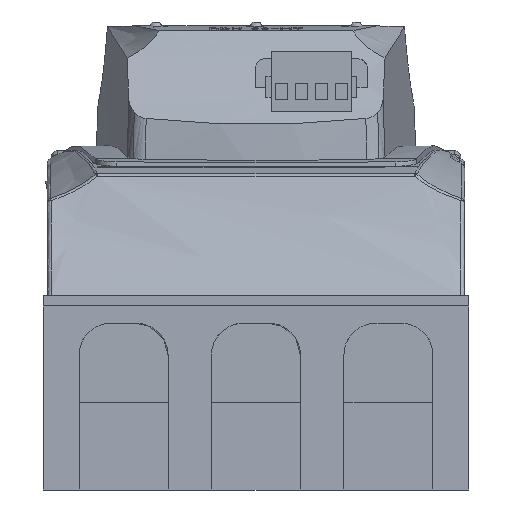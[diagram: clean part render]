
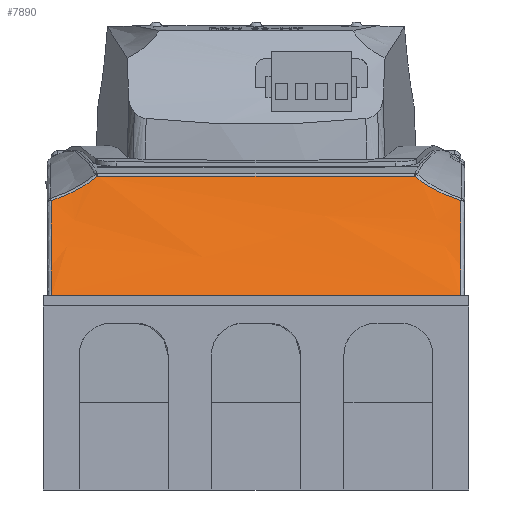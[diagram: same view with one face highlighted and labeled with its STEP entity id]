
A CAD part, left-side view. The second image highlights one B-rep face of the part: STEP entity #7890.
In plain terms, the highlighted face is a extrusion surface.
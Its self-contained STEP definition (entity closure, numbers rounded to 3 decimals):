
#4108=SURFACE_OF_LINEAR_EXTRUSION('',#4993,#14193);
#4993=ELLIPSE('',#32696,35.,12.5);
#7890=ADVANCED_FACE('',(#9507),#4108,.F.);
#9507=FACE_OUTER_BOUND('',#11049,.T.);
#11049=EDGE_LOOP('',(#18317,#18318,#18319,#18320,#18321,#18322));
#12214=LINE('',#43554,#13759);
#12612=LINE('',#54571,#14157);
#13759=VECTOR('',#35335,1.);
#14157=VECTOR('',#37101,1.);
#14193=VECTOR('',#37379,1.);
#18317=ORIENTED_EDGE('',*,*,#28181,.T.);
#18318=ORIENTED_EDGE('',*,*,#28126,.T.);
#18319=ORIENTED_EDGE('',*,*,#28121,.T.);
#18320=ORIENTED_EDGE('',*,*,#27196,.T.);
#18321=ORIENTED_EDGE('',*,*,#26942,.F.);
#18322=ORIENTED_EDGE('',*,*,#28288,.T.);
#24178=VERTEX_POINT('',#43553);
#24179=VERTEX_POINT('',#43555);
#24390=VERTEX_POINT('',#44412);
#24987=VERTEX_POINT('',#54531);
#24990=VERTEX_POINT('',#54568);
#25018=VERTEX_POINT('',#55021);
#26942=EDGE_CURVE('',#24178,#24179,#12214,.T.);
#27196=EDGE_CURVE('',#24390,#24179,#30615,.T.);
#28121=EDGE_CURVE('',#24987,#24390,#30976,.T.);
#28126=EDGE_CURVE('',#24990,#24987,#12612,.T.);
#28181=EDGE_CURVE('',#25018,#24990,#30995,.T.);
#28288=EDGE_CURVE('',#24178,#25018,#31033,.T.);
#30615=B_SPLINE_CURVE_WITH_KNOTS('',3,(#44406,#44407,#44408,#44409,#44410,
#44411),.UNSPECIFIED.,.F.,.F.,(4,2,4),(0.,0.5,1.),.UNSPECIFIED.);
#30976=B_SPLINE_CURVE_WITH_KNOTS('',3,(#54539,#54540,#54541,#54542,#54543,
#54544),.UNSPECIFIED.,.F.,.F.,(4,2,4),(0.,0.5,1.),.UNSPECIFIED.);
#30995=B_SPLINE_CURVE_WITH_KNOTS('',3,(#55015,#55016,#55017,#55018,#55019,
#55020),.UNSPECIFIED.,.F.,.F.,(4,2,4),(0.,0.5,1.),.UNSPECIFIED.);
#31033=B_SPLINE_CURVE_WITH_KNOTS('',3,(#56220,#56221,#56222,#56223,#56224,
#56225),.UNSPECIFIED.,.F.,.F.,(4,2,4),(0.,0.5,1.),.UNSPECIFIED.);
#32696=AXIS2_PLACEMENT_3D('',#56226,#37377,#37378);
#35335=DIRECTION('',(0.,1.,0.));
#37101=DIRECTION('',(0.,1.,0.));
#37377=DIRECTION('',(0.,-1.,0.));
#37378=DIRECTION('',(0.568,0.,0.823));
#37379=DIRECTION('',(0.,-1.,0.));
#43553=CARTESIAN_POINT('',(-175.043,33.,45.002));
#43554=CARTESIAN_POINT('',(-175.043,33.,45.002));
#43555=CARTESIAN_POINT('',(-175.043,135.,45.002));
#44406=CARTESIAN_POINT('',(-159.537,135.,68.653));
#44407=CARTESIAN_POINT('',(-161.463,135.,64.325));
#44408=CARTESIAN_POINT('',(-163.796,135.,60.186));
#44409=CARTESIAN_POINT('',(-168.994,135.,52.289));
#44410=CARTESIAN_POINT('',(-171.874,135.,48.515));
#44411=CARTESIAN_POINT('',(-175.043,135.,45.002));
#44412=CARTESIAN_POINT('',(-159.537,135.,68.653));
#54531=CARTESIAN_POINT('',(-157.184,123.476,74.757));
#54539=CARTESIAN_POINT('',(-157.184,123.476,74.757));
#54540=CARTESIAN_POINT('',(-157.651,125.115,73.302));
#54541=CARTESIAN_POINT('',(-158.088,126.995,72.144));
#54542=CARTESIAN_POINT('',(-158.88,130.869,70.155));
#54543=CARTESIAN_POINT('',(-159.237,132.892,69.327));
#54544=CARTESIAN_POINT('',(-159.537,135.,68.653));
#54568=CARTESIAN_POINT('',(-157.184,44.524,74.757));
#54571=CARTESIAN_POINT('',(-157.184,44.524,74.757));
#55015=CARTESIAN_POINT('',(-159.537,33.,68.653));
#55016=CARTESIAN_POINT('',(-159.237,35.107,69.326));
#55017=CARTESIAN_POINT('',(-158.878,37.144,70.159));
#55018=CARTESIAN_POINT('',(-158.08,41.044,72.166));
#55019=CARTESIAN_POINT('',(-157.649,42.892,73.308));
#55020=CARTESIAN_POINT('',(-157.184,44.524,74.757));
#55021=CARTESIAN_POINT('',(-159.537,33.,68.653));
#56220=CARTESIAN_POINT('',(-175.043,33.,45.002));
#56221=CARTESIAN_POINT('',(-171.879,33.,48.509));
#56222=CARTESIAN_POINT('',(-168.997,33.,52.283));
#56223=CARTESIAN_POINT('',(-163.796,33.,60.186));
#56224=CARTESIAN_POINT('',(-161.463,33.,64.326));
#56225=CARTESIAN_POINT('',(-159.537,33.,68.653));
#56226=CARTESIAN_POINT('',(-177.888,136.,61.55));
